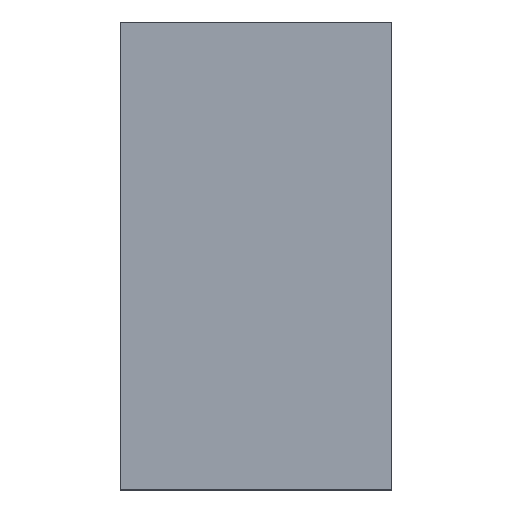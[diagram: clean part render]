
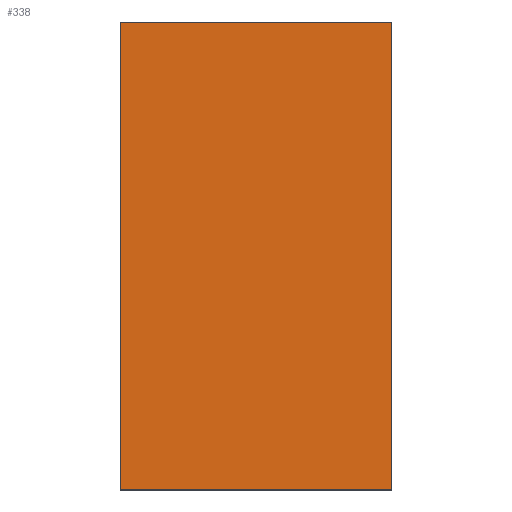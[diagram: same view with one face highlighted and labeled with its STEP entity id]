
A CAD part, top view. The second image highlights one B-rep face of the part: STEP entity #338.
In plain terms, the highlighted planar face has unit normal (0, 0, 1).
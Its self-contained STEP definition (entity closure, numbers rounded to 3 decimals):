
#24 = VERTEX_POINT('',#25);
#25 = CARTESIAN_POINT('',(87.,-150.,20.));
#32 = PLANE('',#33);
#33 = AXIS2_PLACEMENT_3D('',#34,#35,#36);
#34 = CARTESIAN_POINT('',(87.,-150.,0.));
#35 = DIRECTION('',(-0.,1.,-0.));
#36 = DIRECTION('',(1.,0.,0.));
#44 = PLANE('',#45);
#45 = AXIS2_PLACEMENT_3D('',#46,#47,#48);
#46 = CARTESIAN_POINT('',(87.,150.,0.));
#47 = DIRECTION('',(-1.,-0.,-0.));
#48 = DIRECTION('',(0.,1.,0.));
#56 = EDGE_CURVE('',#24,#57,#59,.T.);
#57 = VERTEX_POINT('',#58);
#58 = CARTESIAN_POINT('',(-87.,-150.,20.));
#59 = SURFACE_CURVE('',#60,(#64,#71),.PCURVE_S1.);
#60 = LINE('',#61,#62);
#61 = CARTESIAN_POINT('',(87.,-150.,20.));
#62 = VECTOR('',#63,1.);
#63 = DIRECTION('',(-1.,-0.,-0.));
#64 = PCURVE('',#32,#65);
#65 = DEFINITIONAL_REPRESENTATION('',(#66),#70);
#66 = LINE('',#67,#68);
#67 = CARTESIAN_POINT('',(-0.,-20.));
#68 = VECTOR('',#69,1.);
#69 = DIRECTION('',(-1.,0.));
#70 = ( GEOMETRIC_REPRESENTATION_CONTEXT(2) 
PARAMETRIC_REPRESENTATION_CONTEXT() REPRESENTATION_CONTEXT('2D SPACE',''
  ) );
#71 = PCURVE('',#72,#77);
#72 = PLANE('',#73);
#73 = AXIS2_PLACEMENT_3D('',#74,#75,#76);
#74 = CARTESIAN_POINT('',(0.,0.,20.));
#75 = DIRECTION('',(-0.,-0.,1.));
#76 = DIRECTION('',(1.,0.,0.));
#77 = DEFINITIONAL_REPRESENTATION('',(#78),#82);
#78 = LINE('',#79,#80);
#79 = CARTESIAN_POINT('',(87.,-150.));
#80 = VECTOR('',#81,1.);
#81 = DIRECTION('',(-1.,0.));
#82 = ( GEOMETRIC_REPRESENTATION_CONTEXT(2) 
PARAMETRIC_REPRESENTATION_CONTEXT() REPRESENTATION_CONTEXT('2D SPACE',''
  ) );
#100 = PLANE('',#101);
#101 = AXIS2_PLACEMENT_3D('',#102,#103,#104);
#102 = CARTESIAN_POINT('',(-87.,-150.,0.));
#103 = DIRECTION('',(1.,-0.,-0.));
#104 = DIRECTION('',(0.,-1.,0.));
#142 = EDGE_CURVE('',#57,#143,#145,.T.);
#143 = VERTEX_POINT('',#144);
#144 = CARTESIAN_POINT('',(-87.,150.,20.));
#145 = SURFACE_CURVE('',#146,(#150,#157),.PCURVE_S1.);
#146 = LINE('',#147,#148);
#147 = CARTESIAN_POINT('',(-87.,-150.,20.));
#148 = VECTOR('',#149,1.);
#149 = DIRECTION('',(-0.,1.,-0.));
#150 = PCURVE('',#100,#151);
#151 = DEFINITIONAL_REPRESENTATION('',(#152),#156);
#152 = LINE('',#153,#154);
#153 = CARTESIAN_POINT('',(-0.,-20.));
#154 = VECTOR('',#155,1.);
#155 = DIRECTION('',(-1.,0.));
#156 = ( GEOMETRIC_REPRESENTATION_CONTEXT(2) 
PARAMETRIC_REPRESENTATION_CONTEXT() REPRESENTATION_CONTEXT('2D SPACE',''
  ) );
#157 = PCURVE('',#72,#158);
#158 = DEFINITIONAL_REPRESENTATION('',(#159),#163);
#159 = LINE('',#160,#161);
#160 = CARTESIAN_POINT('',(-87.,-150.));
#161 = VECTOR('',#162,1.);
#162 = DIRECTION('',(-0.,1.));
#163 = ( GEOMETRIC_REPRESENTATION_CONTEXT(2) 
PARAMETRIC_REPRESENTATION_CONTEXT() REPRESENTATION_CONTEXT('2D SPACE',''
  ) );
#181 = PLANE('',#182);
#182 = AXIS2_PLACEMENT_3D('',#183,#184,#185);
#183 = CARTESIAN_POINT('',(-87.,150.,0.));
#184 = DIRECTION('',(-0.,-1.,-0.));
#185 = DIRECTION('',(-1.,0.,0.));
#218 = EDGE_CURVE('',#143,#219,#221,.T.);
#219 = VERTEX_POINT('',#220);
#220 = CARTESIAN_POINT('',(87.,150.,20.));
#221 = SURFACE_CURVE('',#222,(#226,#233),.PCURVE_S1.);
#222 = LINE('',#223,#224);
#223 = CARTESIAN_POINT('',(-87.,150.,20.));
#224 = VECTOR('',#225,1.);
#225 = DIRECTION('',(1.,-0.,-0.));
#226 = PCURVE('',#181,#227);
#227 = DEFINITIONAL_REPRESENTATION('',(#228),#232);
#228 = LINE('',#229,#230);
#229 = CARTESIAN_POINT('',(-0.,-20.));
#230 = VECTOR('',#231,1.);
#231 = DIRECTION('',(-1.,0.));
#232 = ( GEOMETRIC_REPRESENTATION_CONTEXT(2) 
PARAMETRIC_REPRESENTATION_CONTEXT() REPRESENTATION_CONTEXT('2D SPACE',''
  ) );
#233 = PCURVE('',#72,#234);
#234 = DEFINITIONAL_REPRESENTATION('',(#235),#239);
#235 = LINE('',#236,#237);
#236 = CARTESIAN_POINT('',(-87.,150.));
#237 = VECTOR('',#238,1.);
#238 = DIRECTION('',(1.,-0.));
#239 = ( GEOMETRIC_REPRESENTATION_CONTEXT(2) 
PARAMETRIC_REPRESENTATION_CONTEXT() REPRESENTATION_CONTEXT('2D SPACE',''
  ) );
#289 = EDGE_CURVE('',#219,#24,#290,.T.);
#290 = SURFACE_CURVE('',#291,(#295,#302),.PCURVE_S1.);
#291 = LINE('',#292,#293);
#292 = CARTESIAN_POINT('',(87.,150.,20.));
#293 = VECTOR('',#294,1.);
#294 = DIRECTION('',(-0.,-1.,-0.));
#295 = PCURVE('',#44,#296);
#296 = DEFINITIONAL_REPRESENTATION('',(#297),#301);
#297 = LINE('',#298,#299);
#298 = CARTESIAN_POINT('',(-0.,-20.));
#299 = VECTOR('',#300,1.);
#300 = DIRECTION('',(-1.,0.));
#301 = ( GEOMETRIC_REPRESENTATION_CONTEXT(2) 
PARAMETRIC_REPRESENTATION_CONTEXT() REPRESENTATION_CONTEXT('2D SPACE',''
  ) );
#302 = PCURVE('',#72,#303);
#303 = DEFINITIONAL_REPRESENTATION('',(#304),#308);
#304 = LINE('',#305,#306);
#305 = CARTESIAN_POINT('',(87.,150.));
#306 = VECTOR('',#307,1.);
#307 = DIRECTION('',(-0.,-1.));
#308 = ( GEOMETRIC_REPRESENTATION_CONTEXT(2) 
PARAMETRIC_REPRESENTATION_CONTEXT() REPRESENTATION_CONTEXT('2D SPACE',''
  ) );
#338 = ADVANCED_FACE('',(#339),#72,.T.);
#339 = FACE_BOUND('',#340,.F.);
#340 = EDGE_LOOP('',(#341,#342,#343,#344));
#341 = ORIENTED_EDGE('',*,*,#56,.T.);
#342 = ORIENTED_EDGE('',*,*,#142,.T.);
#343 = ORIENTED_EDGE('',*,*,#218,.T.);
#344 = ORIENTED_EDGE('',*,*,#289,.T.);
